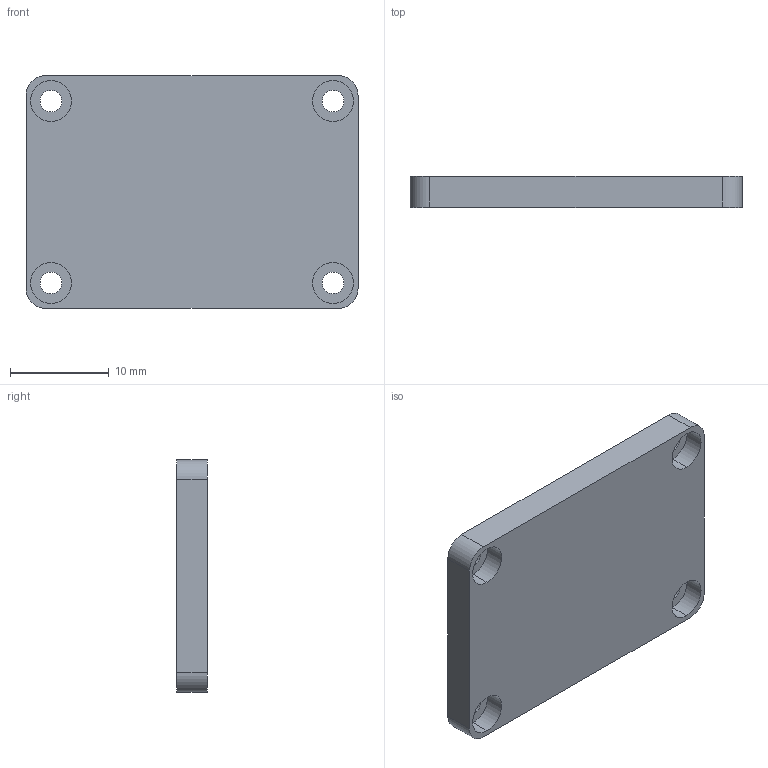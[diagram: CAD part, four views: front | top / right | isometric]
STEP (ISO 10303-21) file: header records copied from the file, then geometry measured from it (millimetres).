
FILE_DESCRIPTION (( 'STEP AP214' ), '1' );
FILE_NAME ('Cos PP94A.STEP', '2017-10-20T07:00:03', ( 'aaa' ), ( '' ), 'SwSTEP 2.0', 'SolidWorks 2013', '' );
FILE_SCHEMA (( 'AUTOMOTIVE_DESIGN' ));
Length unit declared in the file: millimetre
Products named in the file (1): Cos PP94A
Bounding box: 33.6 x 3.1 x 23.55 mm (x, y, z)
Volume: 1385 mm3; surface area: 2178.4 mm2
Topology: 1 solids, 1 shells, 55 faces, 144 edges, 96 vertices
Faces by surface type: cylinder 32, plane 23
Entity records: 1772 total; most frequent: DIRECTION 320, CARTESIAN_POINT 296, ORIENTED_EDGE 288, EDGE_CURVE 144, AXIS2_PLACEMENT_3D 120, VERTEX_POINT 96, VECTOR 80, LINE 80
